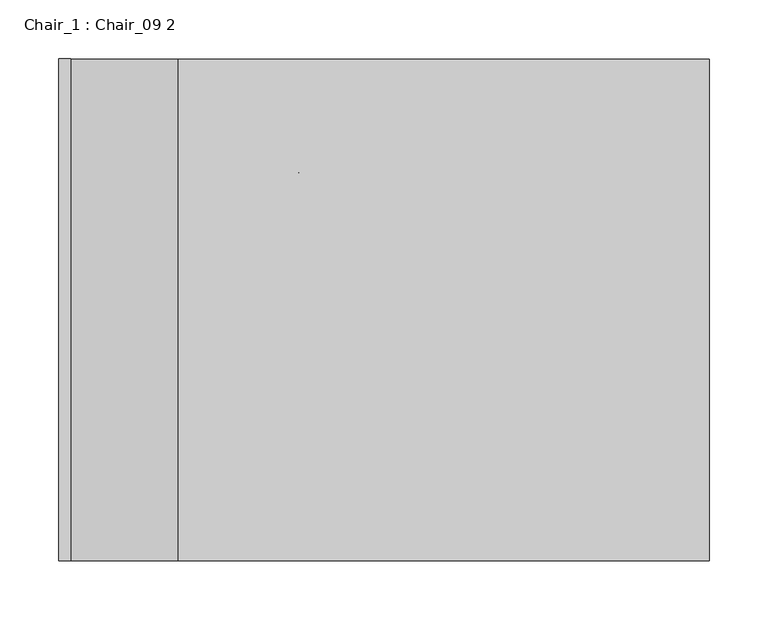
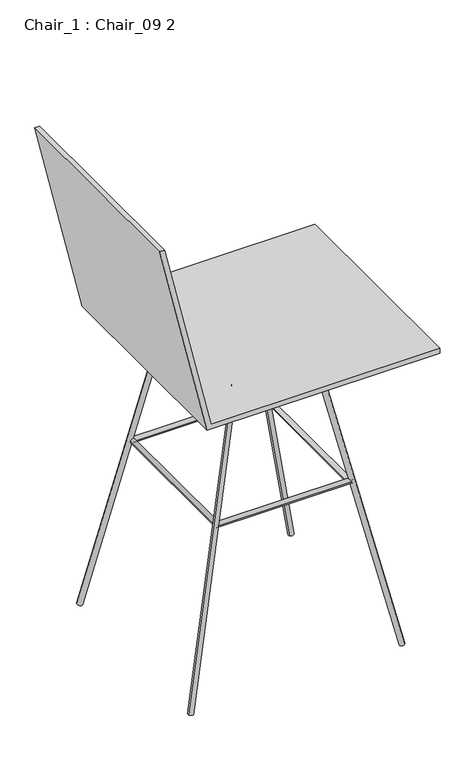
"""IFC4 building model written with IfcOpenShell, lengths in millimetres: furniture geometry, Chair_1 : Chair_09 2."""

from ifc_helpers import new_model, si_unit, point, frame, origin, origin_2d, place, context, project, spatial, polyline, circle_curve, ellipse_curve, trimmed, segment, composite_curve, outline, extrude, source, transform, mapped, element, save
from ifc_brep_helpers import cylinder_surface, advanced_brep


def chair_1_chair_09_2_60f36ab8(model_context):
    return source(origin(), model_context, "Body", "SolidModel", [
        advanced_brep(
        [(129.7972719, -142.9892029, 340.0), (129.7972719, 137.0107971, 340.0), (139.7972719, 147.0107971, 340.0), (139.7972719, -152.9892029, 340.0), (-120.2027281, 137.0107971, 340.0), (-130.2027281, 147.0107971, 340.0), (-120.2027281, -142.9892029, 340.0), (-130.2027281, -152.9892029, 340.0)],
        [
            (0, 1),
            (1, 2, ellipse_curve(frame((134.7972719, 142.0107971, 340.0), z_axis=(0.7071067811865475, -0.7071067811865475, 0.0), x_axis=(-0.7071067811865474, -0.7071067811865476, 0.0)), 7.0710678, 5.0)),
            (2, 3),
            (3, 0, ellipse_curve(frame((134.7972719, -147.9892029, 340.0), z_axis=(0.7071067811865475, 0.7071067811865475, 0.0), x_axis=(0.7071067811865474, -0.7071067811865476, 0.0)), 7.0710678, 5.0)),
            (2, 1, ellipse_curve(frame((134.7972719, 142.0107971, 340.0), z_axis=(0.7071067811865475, -0.7071067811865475, 0.0), x_axis=(-0.7071067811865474, -0.7071067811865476, 0.0)), 7.0710678, 5.0)),
            (0, 3, ellipse_curve(frame((134.7972719, -147.9892029, 340.0), z_axis=(0.7071067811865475, 0.7071067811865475, 0.0), x_axis=(0.7071067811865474, -0.7071067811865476, 0.0)), 7.0710678, 5.0)),
            (1, 4),
            (4, 5, ellipse_curve(frame((-125.2027281, 142.0107971, 340.0), z_axis=(0.7071067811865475, 0.7071067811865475, 0.0), x_axis=(0.7071067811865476, -0.7071067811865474, 0.0)), 7.0710678, 5.0)),
            (5, 2),
            (5, 4, ellipse_curve(frame((-125.2027281, 142.0107971, 340.0), z_axis=(0.7071067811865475, 0.7071067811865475, 0.0), x_axis=(0.7071067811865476, -0.7071067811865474, 0.0)), 7.0710678, 5.0)),
            (4, 6),
            (6, 7, ellipse_curve(frame((-125.2027281, -147.9892029, 340.0), z_axis=(-0.7071067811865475, 0.7071067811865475, 0.0), x_axis=(0.7071067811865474, 0.7071067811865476, 0.0)), 7.0710678, 5.0)),
            (7, 5),
            (7, 6, ellipse_curve(frame((-125.2027281, -147.9892029, 340.0), z_axis=(-0.7071067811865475, 0.7071067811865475, 0.0), x_axis=(0.7071067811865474, 0.7071067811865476, 0.0)), 7.0710678, 5.0)),
            (6, 0),
            (3, 7),
        ],
        [
            cylinder_surface(frame((134.7972719, -147.9892029, 340.0), z_axis=(0.0, -1.0, 0.0), x_axis=(-1.0, 0.0, 0.0)), 5.0),
            cylinder_surface(frame((134.7972719, 142.0107971, 340.0), z_axis=(1.0, 0.0, 0.0), x_axis=(0.0, -1.0, 0.0)), 5.0),
            cylinder_surface(frame((-125.2027281, 142.0107971, 340.0), z_axis=(0.0, 1.0, 0.0), x_axis=(1.0, 0.0, 0.0)), 5.0),
            cylinder_surface(frame((-125.2027281, -147.9892029, 340.0), z_axis=(-1.0, 0.0, 0.0), x_axis=(0.0, 1.0, 0.0)), 5.0),
        ],
        [
            (0, [[1, 2, 3, 4]]),
            (0, [[-3, 5, -1, 6]]),
            (1, [[7, 8, 9, -2]]),
            (1, [[-9, 10, -7, -5]]),
            (2, [[11, 12, 13, -8]]),
            (2, [[-13, 14, -11, -10]]),
            (3, [[15, -4, 16, -12]]),
            (3, [[-16, -6, -15, -14]]),
        ],
    ),
        extrude(outline(composite_curve([segment(trimmed(circle_curve(origin_2d(), 5.0), [point((0.0, -5.0))], [point((0.0, 5.0))], False, "CARTESIAN"), True, "CONTINUOUS"), segment(trimmed(circle_curve(origin_2d(), 5.0), [point((0.0, 5.0))], [point((0.0, -5.0))], False, "CARTESIAN"), True, "CONTINUOUS")], self_intersect=False)), frame((212.8326495, -191.9968514, 0.0), z_axis=(-0.20951050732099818, 0.12096094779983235, 0.9702957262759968), x_axis=(0.49999999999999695, 0.8660254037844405, 0.0)), (0.0, 0.0, 1.0), 613.0459946),
        extrude(outline(composite_curve([segment(trimmed(circle_curve(origin_2d(), 5.0), [point((0.0, 5.0))], [point((1e-07, -5.0))], False, "CARTESIAN"), True, "CONTINUOUS"), segment(trimmed(circle_curve(origin_2d(), 5.0), [point((1e-07, -5.0))], [point((0.0, 5.0))], False, "CARTESIAN"), True, "CONTINUOUS")], self_intersect=False)), frame((212.8326495, 186.1638764, 0.0), z_axis=(-0.20951050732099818, -0.12096094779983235, 0.9702957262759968), x_axis=(0.49999999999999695, -0.8660254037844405, 0.0)), (0.0, 0.0, 1.0), 613.0459946),
        extrude(outline(composite_curve([segment(trimmed(circle_curve(origin_2d(), 5.0), [point((0.0, 5.0))], [point((0.0, -5.0))], False, "CARTESIAN"), True, "CONTINUOUS"), segment(trimmed(circle_curve(origin_2d(), 5.0), [point((0.0, -5.0))], [point((0.0, 5.0))], False, "CARTESIAN"), True, "CONTINUOUS")], self_intersect=False)), frame((-202.7465554, -191.9968514, 0.0), z_axis=(0.20951050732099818, 0.12096094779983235, 0.9702957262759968), x_axis=(-0.49999999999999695, 0.8660254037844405, 0.0)), (0.0, 0.0, 1.0), 613.0459946),
        extrude(outline(composite_curve([segment(trimmed(circle_curve(origin_2d(), 5.0), [point((0.0, -5.0))], [point((0.0, 5.0000001))], False, "CARTESIAN"), True, "CONTINUOUS"), segment(trimmed(circle_curve(origin_2d(), 5.0), [point((0.0, 5.0000001))], [point((0.0, -5.0))], False, "CARTESIAN"), True, "CONTINUOUS")], self_intersect=False)), frame((-202.7465554, 186.1638764, 0.0), z_axis=(0.20951050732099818, -0.12096094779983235, 0.9702957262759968), x_axis=(-0.49999999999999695, -0.8660254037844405, 0.0)), (0.0, 0.0, 1.0), 613.0459946),
        extrude(outline(polyline([(594.8359085, 275.4911898), (604.8359085, 275.4911898), (604.8359085, -174.6969121), (998.1091319, -265.4911898), (998.1091319, -275.4911898), (594.8359085, -182.3882302), (594.8359085, 275.4911898)])), frame((0.0, -212.6044327, 0.0), z_axis=(0.0, 1.0, 0.0), x_axis=(0.0, 0.0, 1.0)), (0.0, 0.0, 1.0), 425.2088655),
    ])


if __name__ == "__main__":
    model = new_model("IFC4")
    model_context = context("Model", 3, world=origin())
    ifc_project = project(units=[si_unit("LENGTHUNIT", "METRE", prefix="MILLI")], contexts=[model_context])
    site = spatial("IfcSite", under=ifc_project)
    building = spatial("IfcBuilding", under=site)
    placement = place(None, origin())
    chair_1_chair_09_2_shape = chair_1_chair_09_2_60f36ab8(model_context)
    element("IfcFurniture", 1, ObjectType="Chair_1 : Chair_09 2", at=placement, inside=building, context=model_context, shape_type="MappedRepresentation", body=[
        mapped(chair_1_chair_09_2_shape, transform((0.0, 0.0, 0.0), x_axis=(1.0, 0.0, 0.0), y_axis=(0.0, 1.0, 0.0), z_axis=(0.0, 0.0, 1.0))),
    ])
    save(model, "model.ifc")
